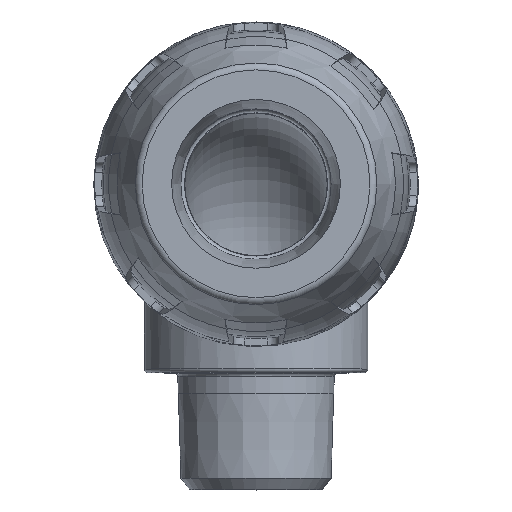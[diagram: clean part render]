
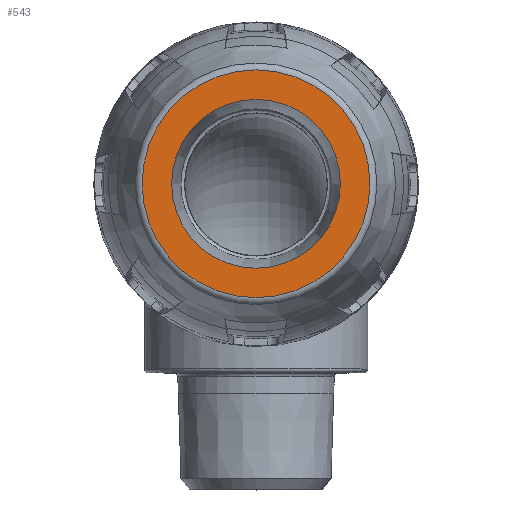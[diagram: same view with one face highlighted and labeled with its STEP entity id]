
A CAD part, top view. The second image highlights one B-rep face of the part: STEP entity #543.
In plain terms, the highlighted planar face has unit normal (0, 0, 1).
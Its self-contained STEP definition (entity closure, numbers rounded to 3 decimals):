
#543 = ADVANCED_FACE( '', ( #1252, #1253 ), #1254, .F. );
#1252 = FACE_BOUND( '', #3991, .T. );
#1253 = FACE_OUTER_BOUND( '', #3992, .T. );
#1254 = PLANE( '', #3993 );
#3991 = EDGE_LOOP( '', ( #6727 ) );
#3992 = EDGE_LOOP( '', ( #6728 ) );
#3993 = AXIS2_PLACEMENT_3D( '', #6729, #6730, #6731 );
#6727 = ORIENTED_EDGE( '', *, *, #8737, .T. );
#6728 = ORIENTED_EDGE( '', *, *, #8738, .T. );
#6729 = CARTESIAN_POINT( '', ( 16.304, 0., 14.763 ) );
#6730 = DIRECTION( '', ( 0., 0., -1. ) );
#6731 = DIRECTION( '', ( 1., 0., 0. ) );
#8737 = EDGE_CURVE( '', #10046, #10046, #10047, .T. );
#8738 = EDGE_CURVE( '', #10048, #10048, #10049, .F. );
#10046 = VERTEX_POINT( '', #13198 );
#10047 = CIRCLE( '', #13199, 11.556 );
#10048 = VERTEX_POINT( '', #13200 );
#10049 = CIRCLE( '', #13201, 15.591 );
#13198 = CARTESIAN_POINT( '', ( -11.556, 0., 14.763 ) );
#13199 = AXIS2_PLACEMENT_3D( '', #14863, #14864, #14865 );
#13200 = CARTESIAN_POINT( '', ( -15.591, 0., 14.763 ) );
#13201 = AXIS2_PLACEMENT_3D( '', #14866, #14867, #14868 );
#14863 = CARTESIAN_POINT( '', ( 0., 0., 14.763 ) );
#14864 = DIRECTION( '', ( 0., 0., -1. ) );
#14865 = DIRECTION( '', ( -1., 0., 0. ) );
#14866 = CARTESIAN_POINT( '', ( 0., 0., 14.763 ) );
#14867 = DIRECTION( '', ( 0., 0., -1. ) );
#14868 = DIRECTION( '', ( -1., 0., 0. ) );
